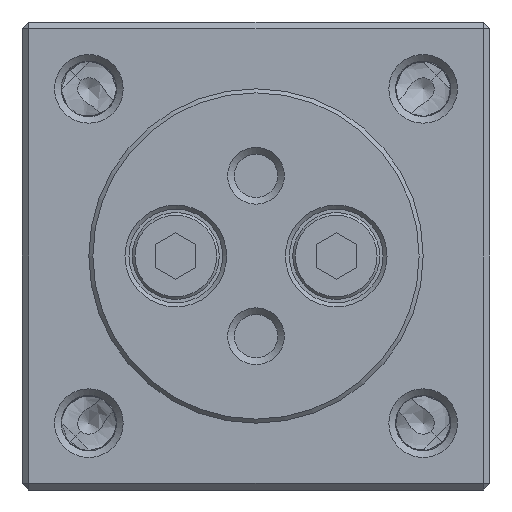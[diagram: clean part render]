
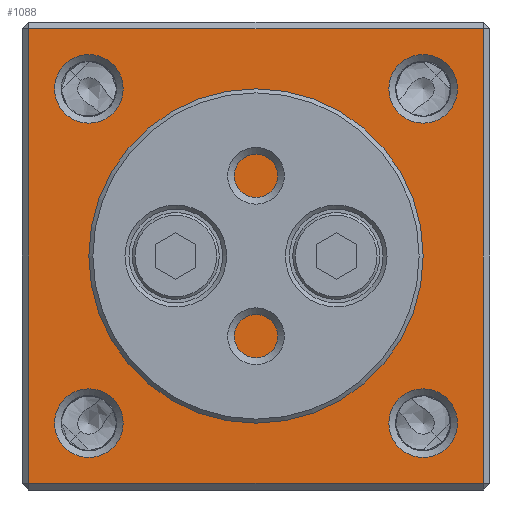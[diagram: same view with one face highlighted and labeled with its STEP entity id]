
A CAD part, front view. The second image highlights one B-rep face of the part: STEP entity #1088.
In plain terms, the highlighted planar face has unit normal (0, -1, 0).
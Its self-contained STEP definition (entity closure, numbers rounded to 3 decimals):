
#979=CARTESIAN_POINT('',(6.,0.0,4.289));
#980=VERTEX_POINT('',#979);
#981=CARTESIAN_POINT('',(6.,0.0,0.0));
#982=DIRECTION('',(0.0,-1.0,0.0));
#983=DIRECTION('',(0.0,0.0,-1.0));
#984=AXIS2_PLACEMENT_3D('',#981,#982,#983);
#985=CIRCLE('',#984,4.289);
#986=EDGE_CURVE('',#980,#980,#985,.T.);
#991=CARTESIAN_POINT('',(0.,0.0,0.));
#992=DIRECTION('',(0.0,1.0,0.0));
#993=DIRECTION('',(0.0,0.0,1.0));
#994=AXIS2_PLACEMENT_3D('',#991,#992,#993);
#995=PLANE('',#994);
#996=CARTESIAN_POINT('',(-17.,0.0,17.));
#997=VERTEX_POINT('',#996);
#998=CARTESIAN_POINT('',(17.,0.0,17.0));
#999=VERTEX_POINT('',#998);
#1000=CARTESIAN_POINT('',(-17.,0.0,17.));
#1001=DIRECTION('',(1.0,0.0,0.0));
#1002=VECTOR('',#1001,34.0);
#1003=LINE('',#1000,#1002);
#1004=EDGE_CURVE('',#997,#999,#1003,.T.);
#1005=ORIENTED_EDGE('',*,*,#1004,.F.);
#1006=CARTESIAN_POINT('',(-17.,0.0,-17.0));
#1007=VERTEX_POINT('',#1006);
#1008=CARTESIAN_POINT('',(-17.,0.0,-17.0));
#1009=DIRECTION('',(0.0,0.0,1.0));
#1010=VECTOR('',#1009,34.0);
#1011=LINE('',#1008,#1010);
#1012=EDGE_CURVE('',#1007,#997,#1011,.T.);
#1013=ORIENTED_EDGE('',*,*,#1012,.F.);
#1014=CARTESIAN_POINT('',(17.,0.0,-17.));
#1015=VERTEX_POINT('',#1014);
#1016=CARTESIAN_POINT('',(17.,0.0,-17.));
#1017=DIRECTION('',(-1.0,0.0,0.0));
#1018=VECTOR('',#1017,34.0);
#1019=LINE('',#1016,#1018);
#1020=EDGE_CURVE('',#1015,#1007,#1019,.T.);
#1021=ORIENTED_EDGE('',*,*,#1020,.F.);
#1022=CARTESIAN_POINT('',(17.,0.0,17.0));
#1023=DIRECTION('',(0.0,0.0,-1.0));
#1024=VECTOR('',#1023,34.0);
#1025=LINE('',#1022,#1024);
#1026=EDGE_CURVE('',#999,#1015,#1025,.T.);
#1027=ORIENTED_EDGE('',*,*,#1026,.F.);
#1028=EDGE_LOOP('',(#1005,#1013,#1021,#1027));
#1029=FACE_OUTER_BOUND('',#1028,.T.);
#1030=CARTESIAN_POINT('',(-6.,0.0,4.289));
#1031=VERTEX_POINT('',#1030);
#1032=CARTESIAN_POINT('',(-6.,0.0,0.0));
#1033=DIRECTION('',(0.0,-1.0,0.0));
#1034=DIRECTION('',(0.0,0.0,-1.0));
#1035=AXIS2_PLACEMENT_3D('',#1032,#1033,#1034);
#1036=CIRCLE('',#1035,4.289);
#1037=EDGE_CURVE('',#1031,#1031,#1036,.T.);
#1038=ORIENTED_EDGE('',*,*,#1037,.F.);
#1039=EDGE_LOOP('',(#1038));
#1040=FACE_BOUND('',#1039,.T.);
#1041=CARTESIAN_POINT('',(15.067,0.0,-12.5));
#1042=VERTEX_POINT('',#1041);
#1043=CARTESIAN_POINT('',(12.5,0.0,-12.5));
#1044=DIRECTION('',(0.0,-1.0,0.0));
#1045=DIRECTION('',(-1.0,0.0,0.0));
#1046=AXIS2_PLACEMENT_3D('',#1043,#1044,#1045);
#1047=CIRCLE('',#1046,2.567);
#1048=EDGE_CURVE('',#1042,#1042,#1047,.T.);
#1049=ORIENTED_EDGE('',*,*,#1048,.F.);
#1050=EDGE_LOOP('',(#1049));
#1051=FACE_BOUND('',#1050,.T.);
#1052=CARTESIAN_POINT('',(15.067,0.0,12.5));
#1053=VERTEX_POINT('',#1052);
#1054=CARTESIAN_POINT('',(12.5,0.0,12.5));
#1055=DIRECTION('',(0.0,-1.0,0.0));
#1056=DIRECTION('',(-1.0,0.0,0.0));
#1057=AXIS2_PLACEMENT_3D('',#1054,#1055,#1056);
#1058=CIRCLE('',#1057,2.567);
#1059=EDGE_CURVE('',#1053,#1053,#1058,.T.);
#1060=ORIENTED_EDGE('',*,*,#1059,.F.);
#1061=EDGE_LOOP('',(#1060));
#1062=FACE_BOUND('',#1061,.T.);
#1063=CARTESIAN_POINT('',(-9.933,0.0,12.5));
#1064=VERTEX_POINT('',#1063);
#1065=CARTESIAN_POINT('',(-12.5,0.0,12.5));
#1066=DIRECTION('',(0.0,-1.0,0.0));
#1067=DIRECTION('',(-1.0,0.0,0.0));
#1068=AXIS2_PLACEMENT_3D('',#1065,#1066,#1067);
#1069=CIRCLE('',#1068,2.567);
#1070=EDGE_CURVE('',#1064,#1064,#1069,.T.);
#1071=ORIENTED_EDGE('',*,*,#1070,.F.);
#1072=EDGE_LOOP('',(#1071));
#1073=FACE_BOUND('',#1072,.T.);
#1074=CARTESIAN_POINT('',(-9.933,0.0,-12.5));
#1075=VERTEX_POINT('',#1074);
#1076=CARTESIAN_POINT('',(-12.5,0.0,-12.5));
#1077=DIRECTION('',(0.0,-1.0,0.0));
#1078=DIRECTION('',(-1.0,0.0,0.0));
#1079=AXIS2_PLACEMENT_3D('',#1076,#1077,#1078);
#1080=CIRCLE('',#1079,2.567);
#1081=EDGE_CURVE('',#1075,#1075,#1080,.T.);
#1082=ORIENTED_EDGE('',*,*,#1081,.F.);
#1083=EDGE_LOOP('',(#1082));
#1084=FACE_BOUND('',#1083,.T.);
#1085=ORIENTED_EDGE('',*,*,#986,.F.);
#1086=EDGE_LOOP('',(#1085));
#1087=FACE_BOUND('',#1086,.T.);
#1088=ADVANCED_FACE('',(#1029,#1040,#1051,#1062,#1073,#1084,#1087),#995,.F.);
